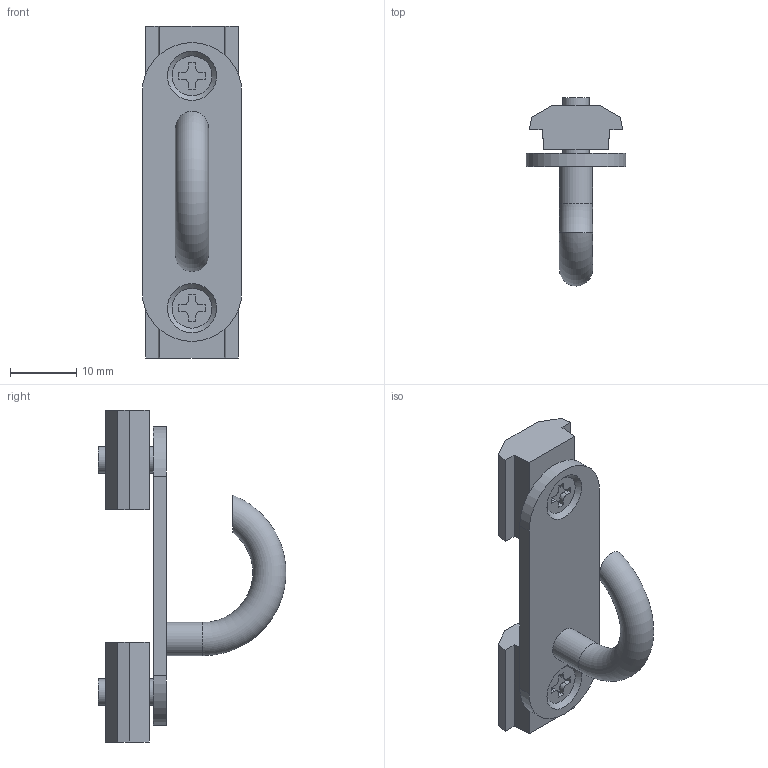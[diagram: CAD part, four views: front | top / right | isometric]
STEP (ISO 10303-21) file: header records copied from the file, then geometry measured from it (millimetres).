
FILE_DESCRIPTION(('STEP AP214'),'1');
FILE_NAME('OPD5-B.stp','2017-07-17T08:18:37',(' '),(' '),'Spatial InterOp 3D',' ',' ');
FILE_SCHEMA(('automotive_design'));
Length unit declared in the file: millimetre
Products named in the file (6): OPD5-B; OPD5-H; M4*10小頭皿ﾈｼﾞ; NF40-M4
Assembly tree (5 placements, depth 2):
  OPD5-B
    OPD5-H
    M4*10小頭皿ﾈｼﾞ
    NF40-M4
    M4*10小頭皿ﾈｼﾞ
    NF40-M4
Bounding box: 15 x 28.29 x 50 mm (x, y, z)
Volume: 4043.3 mm3; surface area: 3850 mm2
Topology: 5 solids, 5 shells, 81 faces, 201 edges, 133 vertices
Faces by surface type: plane 59, cylinder 17, cone 4, torus 1
Full cylindrical faces by diameter (mm): 4 x4, 4.2 x2, 5 x1
Entity records: 3166 total; most frequent: CARTESIAN_POINT 466, DIRECTION 398, ORIENTED_EDGE 376, EDGE_CURVE 188, LINE 148, VECTOR 148, VERTEX_POINT 132, AXIS2_PLACEMENT_3D 125
